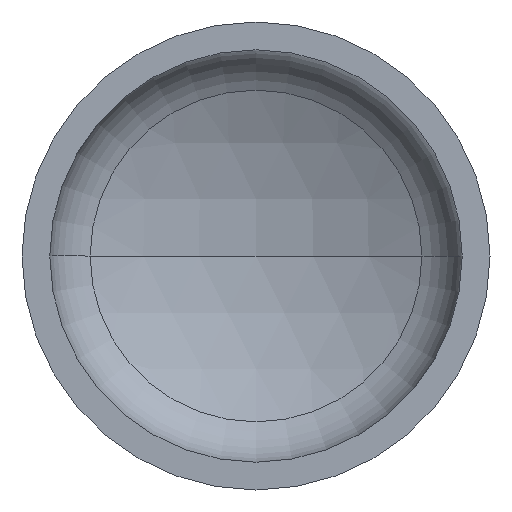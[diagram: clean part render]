
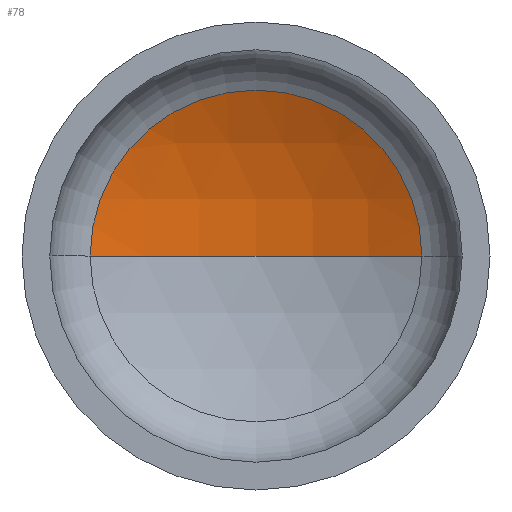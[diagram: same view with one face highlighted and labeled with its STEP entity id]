
A CAD part, front view. The second image highlights one B-rep face of the part: STEP entity #78.
In plain terms, the highlighted spherical face has radius 135 mm.
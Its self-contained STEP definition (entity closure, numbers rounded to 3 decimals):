
#2 = VERTEX_POINT ( 'NONE', #123 ) ;
#19 = AXIS2_PLACEMENT_3D ( 'NONE', #139, #325, #168 ) ;
#43 = VERTEX_POINT ( 'NONE', #360 ) ;
#58 = CARTESIAN_POINT ( 'NONE',  ( 0., -67.788, 0. ) ) ;
#70 = VERTEX_POINT ( 'NONE', #369 ) ;
#78 = ADVANCED_FACE ( 'NONE', ( #237 ), #382, .F. ) ;
#80 = ORIENTED_EDGE ( 'NONE', *, *, #223, .T. ) ;
#115 = DIRECTION ( 'NONE',  ( 1., 0., 0. ) ) ;
#117 = EDGE_LOOP ( 'NONE', ( #248, #129, #80 ) ) ;
#123 = CARTESIAN_POINT ( 'NONE',  ( -59.635, 53.326, 0. ) ) ;
#129 = ORIENTED_EDGE ( 'NONE', *, *, #155, .T. ) ;
#139 = CARTESIAN_POINT ( 'NONE',  ( 0., -67.788, 0. ) ) ;
#155 = EDGE_CURVE ( 'NONE', #43, #70, #230, .T. ) ;
#163 = AXIS2_PLACEMENT_3D ( 'NONE', #58, #278, #115 ) ;
#168 = DIRECTION ( 'NONE',  ( -1., 0., 0. ) ) ;
#184 = DIRECTION ( 'NONE',  ( -1., 0., 0. ) ) ;
#199 = CARTESIAN_POINT ( 'NONE',  ( 0., 53.326, 0. ) ) ;
#211 = CIRCLE ( 'NONE', #215, 59.635 ) ;
#215 = AXIS2_PLACEMENT_3D ( 'NONE', #199, #379, #218 ) ;
#218 = DIRECTION ( 'NONE',  ( 1., 0., 0. ) ) ;
#223 = EDGE_CURVE ( 'NONE', #70, #2, #211, .T. ) ;
#227 = CARTESIAN_POINT ( 'NONE',  ( 0., -67.788, 0. ) ) ;
#230 = CIRCLE ( 'NONE', #19, 135. ) ;
#231 = DIRECTION ( 'NONE',  ( 0., 0., -1. ) ) ;
#237 = FACE_OUTER_BOUND ( 'NONE', #117, .T. ) ;
#248 = ORIENTED_EDGE ( 'NONE', *, *, #408, .F. ) ;
#278 = DIRECTION ( 'NONE',  ( 0., 0., 1. ) ) ;
#295 = CIRCLE ( 'NONE', #163, 135. ) ;
#325 = DIRECTION ( 'NONE',  ( 0., 0., -1. ) ) ;
#350 = AXIS2_PLACEMENT_3D ( 'NONE', #227, #231, #184 ) ;
#360 = CARTESIAN_POINT ( 'NONE',  ( 0., 67.212, 0. ) ) ;
#369 = CARTESIAN_POINT ( 'NONE',  ( 59.635, 53.326, 0. ) ) ;
#379 = DIRECTION ( 'NONE',  ( 0., -1., 0. ) ) ;
#382 = SPHERICAL_SURFACE ( 'NONE', #350, 135. ) ;
#408 = EDGE_CURVE ( 'NONE', #43, #2, #295, .T. ) ;
